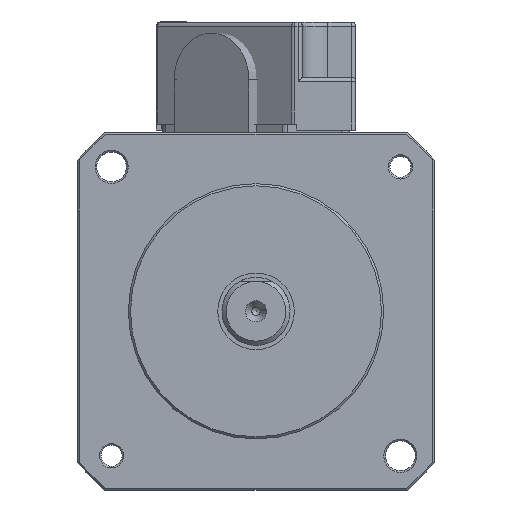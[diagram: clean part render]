
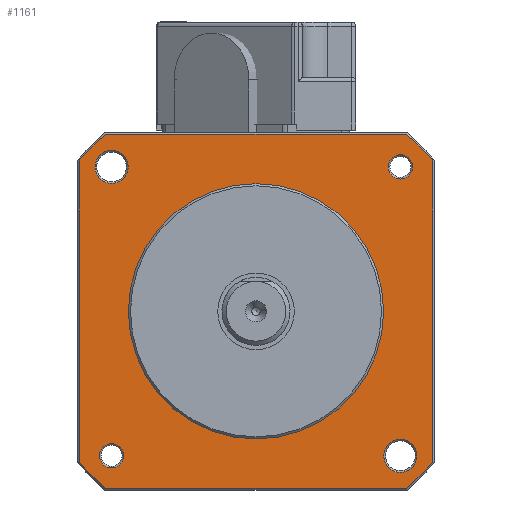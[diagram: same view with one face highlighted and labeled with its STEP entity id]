
A CAD part, left-side view. The second image highlights one B-rep face of the part: STEP entity #1161.
In plain terms, the highlighted planar face has unit normal (-1, 0, 0) as drawn and (0, -1, 0) by its records, which use the part's own axes.
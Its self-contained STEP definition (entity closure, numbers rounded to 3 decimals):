
#1161 = ADVANCED_FACE( '', ( #2530, #2531, #2532, #2533, #2534, #2535 ), #2536, .F. );
#2530 = FACE_BOUND( '', #4283, .T. );
#2531 = FACE_BOUND( '', #4284, .T. );
#2532 = FACE_OUTER_BOUND( '', #4285, .T. );
#2533 = FACE_BOUND( '', #4286, .T. );
#2534 = FACE_BOUND( '', #4287, .T. );
#2535 = FACE_BOUND( '', #4288, .T. );
#2536 = PLANE( '', #4289 );
#4283 = EDGE_LOOP( '', ( #7175 ) );
#4284 = EDGE_LOOP( '', ( #7176 ) );
#4285 = EDGE_LOOP( '', ( #7177, #7178, #7179, #7180, #7181, #7182, #7183, #7184 ) );
#4286 = EDGE_LOOP( '', ( #7185 ) );
#4287 = EDGE_LOOP( '', ( #7186 ) );
#4288 = EDGE_LOOP( '', ( #7187 ) );
#4289 = AXIS2_PLACEMENT_3D( '', #7188, #7189, #7190 );
#7175 = ORIENTED_EDGE( '', *, *, #10561, .T. );
#7176 = ORIENTED_EDGE( '', *, *, #10050, .T. );
#7177 = ORIENTED_EDGE( '', *, *, #10562, .T. );
#7178 = ORIENTED_EDGE( '', *, *, #10563, .T. );
#7179 = ORIENTED_EDGE( '', *, *, #10434, .T. );
#7180 = ORIENTED_EDGE( '', *, *, #9675, .T. );
#7181 = ORIENTED_EDGE( '', *, *, #10423, .T. );
#7182 = ORIENTED_EDGE( '', *, *, #10564, .T. );
#7183 = ORIENTED_EDGE( '', *, *, #10565, .T. );
#7184 = ORIENTED_EDGE( '', *, *, #10069, .T. );
#7185 = ORIENTED_EDGE( '', *, *, #10566, .T. );
#7186 = ORIENTED_EDGE( '', *, *, #10567, .T. );
#7187 = ORIENTED_EDGE( '', *, *, #10313, .T. );
#7188 = CARTESIAN_POINT( '', ( 0., -8.3, 0. ) );
#7189 = DIRECTION( '', ( 0., 1., 0. ) );
#7190 = DIRECTION( '', ( 0., 0., 1. ) );
#9675 = EDGE_CURVE( '', #11270, #11271, #11272, .F. );
#10050 = EDGE_CURVE( '', #11921, #11921, #11922, .T. );
#10069 = EDGE_CURVE( '', #11951, #11952, #11953, .F. );
#10313 = EDGE_CURVE( '', #12338, #12338, #12339, .T. );
#10423 = EDGE_CURVE( '', #11271, #12505, #12506, .F. );
#10434 = EDGE_CURVE( '', #12521, #11270, #12522, .F. );
#10561 = EDGE_CURVE( '', #12700, #12700, #12701, .T. );
#10562 = EDGE_CURVE( '', #11952, #12702, #12703, .F. );
#10563 = EDGE_CURVE( '', #12702, #12521, #12704, .F. );
#10564 = EDGE_CURVE( '', #12505, #12705, #12706, .F. );
#10565 = EDGE_CURVE( '', #12705, #11951, #12707, .F. );
#10566 = EDGE_CURVE( '', #12708, #12708, #12709, .T. );
#10567 = EDGE_CURVE( '', #12710, #12710, #12711, .T. );
#11270 = VERTEX_POINT( '', #13570 );
#11271 = VERTEX_POINT( '', #13571 );
#11272 = LINE( '', #13572, #13573 );
#11921 = VERTEX_POINT( '', #14590 );
#11922 = CIRCLE( '', #14591, 1.95 );
#11951 = VERTEX_POINT( '', #14628 );
#11952 = VERTEX_POINT( '', #14629 );
#11953 = LINE( '', #14630, #14631 );
#12338 = VERTEX_POINT( '', #15135 );
#12339 = CIRCLE( '', #15136, 15. );
#12505 = VERTEX_POINT( '', #15377 );
#12506 = CIRCLE( '', #15378, 27.3 );
#12521 = VERTEX_POINT( '', #15399 );
#12522 = CIRCLE( '', #15400, 27.3 );
#12700 = VERTEX_POINT( '', #15668 );
#12701 = CIRCLE( '', #15669, 1.95 );
#12702 = VERTEX_POINT( '', #15670 );
#12703 = CIRCLE( '', #15671, 27.3 );
#12704 = LINE( '', #15672, #15673 );
#12705 = VERTEX_POINT( '', #15674 );
#12706 = LINE( '', #15675, #15676 );
#12707 = CIRCLE( '', #15677, 27.3 );
#12708 = VERTEX_POINT( '', #15678 );
#12709 = CIRCLE( '', #15679, 1.425 );
#12710 = VERTEX_POINT( '', #15680 );
#12711 = CIRCLE( '', #15681, 1.425 );
#13570 = CARTESIAN_POINT( '', ( 20.8, -8.3, -17.682 ) );
#13571 = CARTESIAN_POINT( '', ( 20.8, -8.3, 17.682 ) );
#13572 = CARTESIAN_POINT( '', ( 20.8, -8.3, -17.755 ) );
#13573 = VECTOR( '', #16911, 1000. );
#14590 = CARTESIAN_POINT( '', ( 16.971, -8.3, 18.921 ) );
#14591 = AXIS2_PLACEMENT_3D( '', #17448, #17449, #17450 );
#14628 = CARTESIAN_POINT( '', ( -20.8, -8.3, 17.682 ) );
#14629 = CARTESIAN_POINT( '', ( -20.8, -8.3, -17.682 ) );
#14630 = CARTESIAN_POINT( '', ( -20.8, -8.3, 17.755 ) );
#14631 = VECTOR( '', #17474, 1000. );
#15135 = CARTESIAN_POINT( '', ( 0., -8.3, 15. ) );
#15136 = AXIS2_PLACEMENT_3D( '', #17801, #17802, #17803 );
#15377 = CARTESIAN_POINT( '', ( 17.682, -8.3, 20.8 ) );
#15378 = AXIS2_PLACEMENT_3D( '', #17959, #17960, #17961 );
#15399 = CARTESIAN_POINT( '', ( 17.682, -8.3, -20.8 ) );
#15400 = AXIS2_PLACEMENT_3D( '', #17974, #17975, #17976 );
#15668 = CARTESIAN_POINT( '', ( -16.971, -8.3, -15.021 ) );
#15669 = AXIS2_PLACEMENT_3D( '', #18129, #18130, #18131 );
#15670 = CARTESIAN_POINT( '', ( -17.682, -8.3, -20.8 ) );
#15671 = AXIS2_PLACEMENT_3D( '', #18132, #18133, #18134 );
#15672 = CARTESIAN_POINT( '', ( -17.755, -8.3, -20.8 ) );
#15673 = VECTOR( '', #18135, 1000. );
#15674 = CARTESIAN_POINT( '', ( -17.682, -8.3, 20.8 ) );
#15675 = CARTESIAN_POINT( '', ( 17.755, -8.3, 20.8 ) );
#15676 = VECTOR( '', #18136, 1000. );
#15677 = AXIS2_PLACEMENT_3D( '', #18137, #18138, #18139 );
#15678 = CARTESIAN_POINT( '', ( 16.971, -8.3, -15.546 ) );
#15679 = AXIS2_PLACEMENT_3D( '', #18140, #18141, #18142 );
#15680 = CARTESIAN_POINT( '', ( -16.971, -8.3, 18.396 ) );
#15681 = AXIS2_PLACEMENT_3D( '', #18143, #18144, #18145 );
#16911 = DIRECTION( '', ( 0., 0., -1. ) );
#17448 = CARTESIAN_POINT( '', ( 16.971, -8.3, 16.971 ) );
#17449 = DIRECTION( '', ( 0., 1., 0. ) );
#17450 = DIRECTION( '', ( 0., 0., 1. ) );
#17474 = DIRECTION( '', ( 0., 0., 1. ) );
#17801 = CARTESIAN_POINT( '', ( 0., -8.3, 0. ) );
#17802 = DIRECTION( '', ( 0., 1., 0. ) );
#17803 = DIRECTION( '', ( 0., 0., 1. ) );
#17959 = CARTESIAN_POINT( '', ( 0., -8.3, 0. ) );
#17960 = DIRECTION( '', ( 0., 1., 0. ) );
#17961 = DIRECTION( '', ( 0., 0., 1. ) );
#17974 = CARTESIAN_POINT( '', ( 0., -8.3, 0. ) );
#17975 = DIRECTION( '', ( 0., 1., 0. ) );
#17976 = DIRECTION( '', ( 0., 0., 1. ) );
#18129 = CARTESIAN_POINT( '', ( -16.971, -8.3, -16.971 ) );
#18130 = DIRECTION( '', ( 0., 1., 0. ) );
#18131 = DIRECTION( '', ( 0., 0., 1. ) );
#18132 = CARTESIAN_POINT( '', ( 0., -8.3, 0. ) );
#18133 = DIRECTION( '', ( 0., 1., 0. ) );
#18134 = DIRECTION( '', ( 0., 0., 1. ) );
#18135 = DIRECTION( '', ( -1., 0., 0. ) );
#18136 = DIRECTION( '', ( 1., 0., 0. ) );
#18137 = CARTESIAN_POINT( '', ( 0., -8.3, 0. ) );
#18138 = DIRECTION( '', ( 0., 1., 0. ) );
#18139 = DIRECTION( '', ( 0., 0., 1. ) );
#18140 = CARTESIAN_POINT( '', ( 16.971, -8.3, -16.971 ) );
#18141 = DIRECTION( '', ( 0., 1., 0. ) );
#18142 = DIRECTION( '', ( 0., 0., 1. ) );
#18143 = CARTESIAN_POINT( '', ( -16.971, -8.3, 16.971 ) );
#18144 = DIRECTION( '', ( 0., 1., 0. ) );
#18145 = DIRECTION( '', ( 0., 0., 1. ) );
